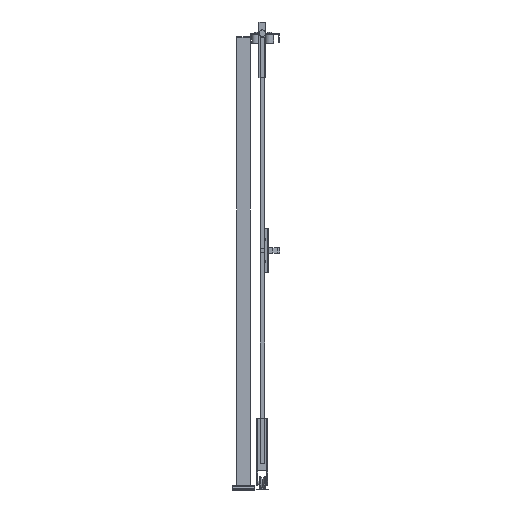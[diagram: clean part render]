
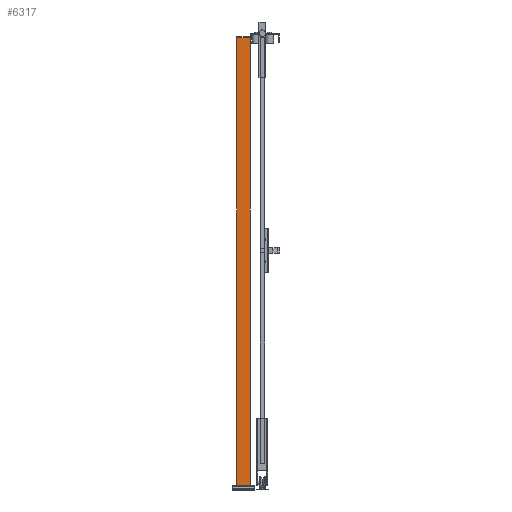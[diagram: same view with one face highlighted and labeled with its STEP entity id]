
A CAD part, left-side view. The second image highlights one B-rep face of the part: STEP entity #6317.
In plain terms, the highlighted planar face has unit normal (-1, 0, 0) as drawn and (0, 1, 0) by its records, which use the part's own axes.
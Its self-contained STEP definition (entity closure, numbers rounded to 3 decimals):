
#667=FACE_OUTER_BOUND('',#1119,.T.);
#1119=EDGE_LOOP('',(#3897,#3898,#3899,#3900));
#1636=VERTEX_POINT('',#12755);
#1637=VERTEX_POINT('',#12757);
#1639=VERTEX_POINT('',#12763);
#1642=VERTEX_POINT('',#12768);
#2560=EDGE_CURVE('',#1636,#1637,#7272,.T.);
#2566=EDGE_CURVE('',#1642,#1639,#7278,.T.);
#2569=EDGE_CURVE('',#1637,#1642,#7281,.T.);
#2570=EDGE_CURVE('',#1636,#1639,#7282,.T.);
#3897=ORIENTED_EDGE('',*,*,#2570,.T.);
#3898=ORIENTED_EDGE('',*,*,#2566,.F.);
#3899=ORIENTED_EDGE('',*,*,#2569,.F.);
#3900=ORIENTED_EDGE('',*,*,#2560,.F.);
#5929=PLANE('',#9174);
#6317=ADVANCED_FACE('',(#667),#5929,.F.);
#7272=LINE('',#12758,#8286);
#7278=LINE('',#12770,#8292);
#7281=LINE('',#12775,#8295);
#7282=LINE('',#12777,#8296);
#8286=VECTOR('',#10123,1.);
#8292=VECTOR('',#10131,1.);
#8295=VECTOR('',#10138,1.);
#8296=VECTOR('',#10141,1.);
#9174=AXIS2_PLACEMENT_3D('',#12776,#10139,#10140);
#10123=DIRECTION('',(-1.,0.,0.));
#10131=DIRECTION('',(1.,0.,0.));
#10138=DIRECTION('',(0.,0.,-1.));
#10139=DIRECTION('center_axis',(0.,-1.,0.));
#10140=DIRECTION('ref_axis',(0.,0.,-1.));
#10141=DIRECTION('',(0.,0.,-1.));
#12755=CARTESIAN_POINT('',(30.,30.,2020.));
#12757=CARTESIAN_POINT('',(-30.,30.,2020.));
#12758=CARTESIAN_POINT('',(0.,30.,2020.));
#12763=CARTESIAN_POINT('',(30.,30.,20.));
#12768=CARTESIAN_POINT('',(-30.,30.,20.));
#12770=CARTESIAN_POINT('',(0.,30.,20.));
#12775=CARTESIAN_POINT('',(-30.,30.,1020.));
#12776=CARTESIAN_POINT('Origin',(0.,30.,
1020.));
#12777=CARTESIAN_POINT('',(30.,30.,1020.));
